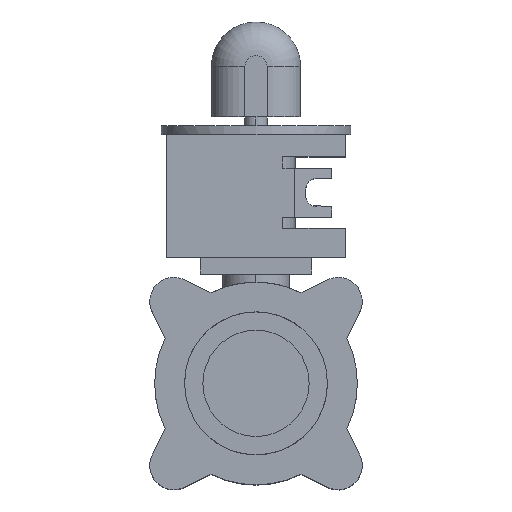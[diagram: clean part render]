
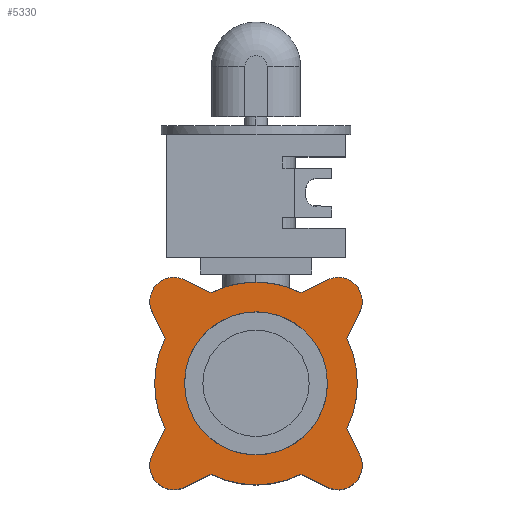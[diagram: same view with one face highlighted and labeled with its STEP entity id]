
A CAD part, top view. The second image highlights one B-rep face of the part: STEP entity #5330.
In plain terms, the highlighted planar face has unit normal (0, 0, 1) as drawn and (-1, 0, 0) by its records, which use the part's own axes.
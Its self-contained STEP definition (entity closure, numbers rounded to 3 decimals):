
#950=CARTESIAN_POINT('',(-75.5,0.,0.));
#960=DIRECTION('',(-1.,0.,0.));
#970=DIRECTION('',(0.,0.,1.));
#980=AXIS2_PLACEMENT_3D('',#950,#960,#970);
#990=CIRCLE('',#980,45.4);
#1000=CARTESIAN_POINT('',(-75.5,14.515,43.017));
#1010=VERTEX_POINT('',#1000);
#1020=CARTESIAN_POINT('',(-75.5,43.017,14.515));
#1030=VERTEX_POINT('',#1020);
#1040=EDGE_CURVE('',#1010,#1030,#990,.T.);
#1660=CARTESIAN_POINT('',(-75.5,14.515,43.017));
#1670=DIRECTION('',(0.,0.326,-0.946));
#1680=VECTOR('',#1670,1.);
#1690=LINE('',#1660,#1680);
#1700=CARTESIAN_POINT('',(-75.5,10.212,55.516));
#1710=VERTEX_POINT('',#1700);
#1720=EDGE_CURVE('',#1710,#1010,#1690,.T.);
#1970=CARTESIAN_POINT('',(-75.5,-43.017,14.515));
#1980=DIRECTION('',(0.,0.946,0.326));
#1990=VECTOR('',#1980,1.);
#2000=LINE('',#1970,#1990);
#2010=CARTESIAN_POINT('',(-75.5,-55.516,10.212));
#2020=VERTEX_POINT('',#2010);
#2030=CARTESIAN_POINT('',(-75.5,-43.017,14.515));
#2040=VERTEX_POINT('',#2030);
#2050=EDGE_CURVE('',#2020,#2040,#2000,.T.);
#2660=CARTESIAN_POINT('',(-75.5,-43.017,-14.515));
#2670=VERTEX_POINT('',#2660);
#2700=CARTESIAN_POINT('',(-75.5,-55.516,-10.212));
#2710=DIRECTION('',(0.,0.946,-0.326));
#2720=VECTOR('',#2710,1.);
#2730=LINE('',#2700,#2720);
#2740=CARTESIAN_POINT('',(-75.5,-55.516,-10.212));
#2750=VERTEX_POINT('',#2740);
#2760=EDGE_CURVE('',#2750,#2670,#2730,.T.);
#3050=CARTESIAN_POINT('',(-75.5,-10.212,55.516));
#3060=VERTEX_POINT('',#3050);
#3090=CARTESIAN_POINT('',(-75.5,0.,52.));
#3100=DIRECTION('',(-1.,0.,0.));
#3110=DIRECTION('',(0.,0.,1.));
#3120=AXIS2_PLACEMENT_3D('',#3090,#3100,#3110);
#3130=CIRCLE('',#3120,10.8);
#3140=EDGE_CURVE('',#3060,#1710,#3130,.T.);
#4180=CARTESIAN_POINT('',(-75.5,0.,-60.65)
);
#4190=DIRECTION('',(1.,0.,-0.));
#4200=DIRECTION('',(0.,0.,1.));
#4210=AXIS2_PLACEMENT_3D('',#4180,#4190,#4200);
#4220=PLANE('',#4210);
#4230=CARTESIAN_POINT('',(-75.5,10.212,-55.516));
#4240=DIRECTION('',(0.,0.326,0.946));
#4250=VECTOR('',#4240,1.);
#4260=LINE('',#4230,#4250);
#4270=CARTESIAN_POINT('',(-75.5,10.212,-55.516));
#4280=VERTEX_POINT('',#4270);
#4290=CARTESIAN_POINT('',(-75.5,14.515,-43.017));
#4300=VERTEX_POINT('',#4290);
#4310=EDGE_CURVE('',#4280,#4300,#4260,.T.);
#4320=ORIENTED_EDGE('',*,*,#4310,.F.);
#4330=CARTESIAN_POINT('',(-75.5,0.,0.));
#4340=DIRECTION('',(-1.,0.,0.));
#4350=DIRECTION('',(0.,0.,1.));
#4360=AXIS2_PLACEMENT_3D('',#4330,#4340,#4350);
#4370=CIRCLE('',#4360,45.4);
#4380=CARTESIAN_POINT('',(-75.5,43.017,-14.515));
#4390=VERTEX_POINT('',#4380);
#4400=EDGE_CURVE('',#4390,#4300,#4370,.T.);
#4410=ORIENTED_EDGE('',*,*,#4400,.T.);
#4420=CARTESIAN_POINT('',(-75.5,55.516,-10.212));
#4430=DIRECTION('',(0.,0.946,0.326));
#4440=VECTOR('',#4430,1.);
#4450=LINE('',#4420,#4440);
#4460=CARTESIAN_POINT('',(-75.5,55.516,-10.212));
#4470=VERTEX_POINT('',#4460);
#4480=EDGE_CURVE('',#4390,#4470,#4450,.T.);
#4490=ORIENTED_EDGE('',*,*,#4480,.F.);
#4500=CARTESIAN_POINT('',(-75.5,52.,0.));
#4510=DIRECTION('',(1.,0.,0.));
#4520=DIRECTION('',(0.,0.,-1.));
#4530=AXIS2_PLACEMENT_3D('',#4500,#4510,#4520);
#4540=CIRCLE('',#4530,10.8);
#4550=CARTESIAN_POINT('',(-75.5,55.516,10.212));
#4560=VERTEX_POINT('',#4550);
#4570=EDGE_CURVE('',#4470,#4560,#4540,.T.);
#4580=ORIENTED_EDGE('',*,*,#4570,.F.);
#4590=CARTESIAN_POINT('',(-75.5,55.516,10.212));
#4600=DIRECTION('',(0.,0.946,-0.326));
#4610=VECTOR('',#4600,1.);
#4620=LINE('',#4590,#4610);
#4630=EDGE_CURVE('',#1030,#4560,#4620,.T.);
#4640=ORIENTED_EDGE('',*,*,#4630,.T.);
#4650=ORIENTED_EDGE('',*,*,#1040,.T.);
#4660=ORIENTED_EDGE('',*,*,#1720,.T.);
#4670=ORIENTED_EDGE('',*,*,#3140,.T.);
#4680=CARTESIAN_POINT('',(-75.5,-10.212,55.516));
#4690=DIRECTION('',(0.,-0.326,-0.946));
#4700=VECTOR('',#4690,1.);
#4710=LINE('',#4680,#4700);
#4720=CARTESIAN_POINT('',(-75.5,-14.515,43.017));
#4730=VERTEX_POINT('',#4720);
#4740=EDGE_CURVE('',#3060,#4730,#4710,.T.);
#4750=ORIENTED_EDGE('',*,*,#4740,.F.);
#4760=CARTESIAN_POINT('',(-75.5,0.,0.));
#4770=DIRECTION('',(-1.,0.,0.));
#4780=DIRECTION('',(0.,0.,1.));
#4790=AXIS2_PLACEMENT_3D('',#4760,#4770,#4780);
#4800=CIRCLE('',#4790,45.4);
#4810=EDGE_CURVE('',#2040,#4730,#4800,.T.);
#4820=ORIENTED_EDGE('',*,*,#4810,.T.);
#4830=ORIENTED_EDGE('',*,*,#2050,.T.);
#4840=CARTESIAN_POINT('',(-75.5,-52.,0.));
#4850=DIRECTION('',(1.,0.,0.));
#4860=DIRECTION('',(0.,0.,-1.));
#4870=AXIS2_PLACEMENT_3D('',#4840,#4850,#4860);
#4880=CIRCLE('',#4870,10.8);
#4890=EDGE_CURVE('',#2020,#2750,#4880,.T.);
#4900=ORIENTED_EDGE('',*,*,#4890,.F.);
#4910=ORIENTED_EDGE('',*,*,#2760,.F.);
#4920=CARTESIAN_POINT('',(-75.5,0.,0.));
#4930=DIRECTION('',(-1.,0.,0.));
#4940=DIRECTION('',(0.,0.,1.));
#4950=AXIS2_PLACEMENT_3D('',#4920,#4930,#4940);
#4960=CIRCLE('',#4950,45.4);
#4970=CARTESIAN_POINT('',(-75.5,-14.515,-43.017));
#4980=VERTEX_POINT('',#4970);
#4990=EDGE_CURVE('',#4980,#2670,#4960,.T.);
#5000=ORIENTED_EDGE('',*,*,#4990,.T.);
#5010=CARTESIAN_POINT('',(-75.5,-10.212,-55.516));
#5020=DIRECTION('',(0.,0.326,-0.946));
#5030=VECTOR('',#5020,1.);
#5040=LINE('',#5010,#5030);
#5050=CARTESIAN_POINT('',(-75.5,-10.212,-55.516));
#5060=VERTEX_POINT('',#5050);
#5070=EDGE_CURVE('',#4980,#5060,#5040,.T.);
#5080=ORIENTED_EDGE('',*,*,#5070,.F.);
#5090=CARTESIAN_POINT('',(-75.5,0.,-52.));
#5100=DIRECTION('',(1.,0.,0.));
#5110=DIRECTION('',(0.,0.,-1.));
#5120=AXIS2_PLACEMENT_3D('',#5090,#5100,#5110);
#5130=CIRCLE('',#5120,10.8);
#5140=EDGE_CURVE('',#5060,#4280,#5130,.T.);
#5150=ORIENTED_EDGE('',*,*,#5140,.F.);
#5160=EDGE_LOOP('',(#5150,#5080,#5000,#4910,#4900,#4830,#4820,#4750,
#4670,#4660,#4650,#4640,#4580,#4490,#4410,#4320));
#5170=FACE_OUTER_BOUND('',#5160,.T.);
#5180=CARTESIAN_POINT('',(-75.5,0.,0.));
#5190=DIRECTION('',(-1.,0.,0.));
#5200=DIRECTION('',(0.,-0.707,0.707));
#5210=AXIS2_PLACEMENT_3D('',#5180,#5190,#5200);
#5220=CIRCLE('',#5210,25.4);
#5230=CARTESIAN_POINT('',(-75.5,-17.961,17.961));
#5240=VERTEX_POINT('',#5230);
#5250=CARTESIAN_POINT('',(-75.5,17.961,-17.961));
#5260=VERTEX_POINT('',#5250);
#5270=EDGE_CURVE('',#5240,#5260,#5220,.T.);
#5280=ORIENTED_EDGE('',*,*,#5270,.F.);
#5290=EDGE_CURVE('',#5260,#5240,#5220,.T.);
#5300=ORIENTED_EDGE('',*,*,#5290,.F.);
#5310=EDGE_LOOP('',(#5300,#5280));
#5320=FACE_BOUND('',#5310,.T.);
#5330=ADVANCED_FACE('',(#5170,#5320),#4220,.F.);
